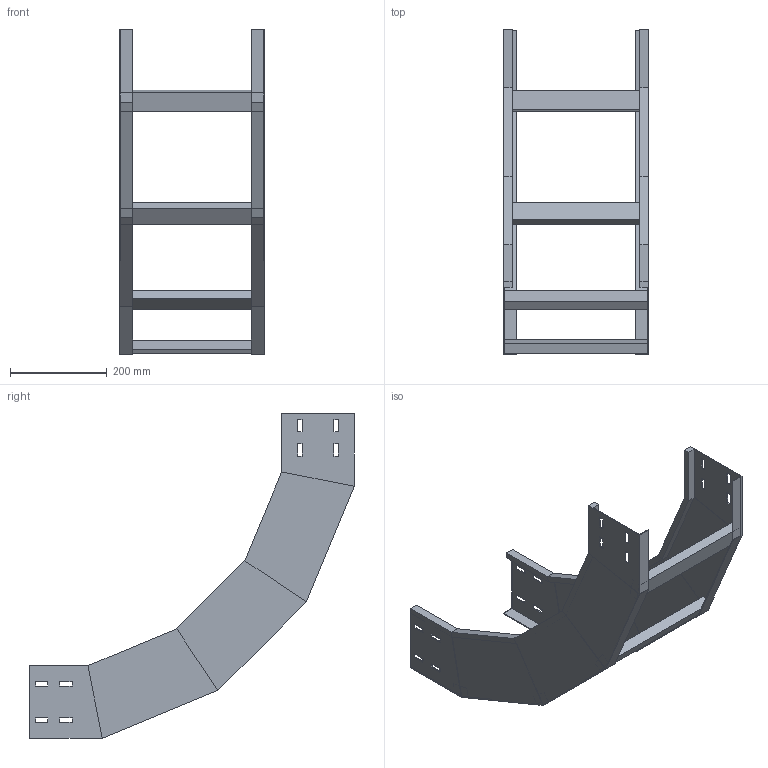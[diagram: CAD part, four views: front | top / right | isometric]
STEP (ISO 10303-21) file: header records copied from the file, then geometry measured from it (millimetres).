
FILE_DESCRIPTION (( 'STEP AP214' ), '1' );
FILE_NAME ('30J5F300.step', '2025-02-21T16:27:18', ( '' ), ( '' ), 'SwSTEP 2.0', 'SolidWorks 2023', '' );
FILE_SCHEMA (( 'AUTOMOTIVE_DESIGN' ));
Length unit declared in the file: millimetre
Products named in the file (3): TRAVERSINO_300; 30J5F300; LONGH.SALITA_90°_H150_R500
Assembly tree (6 placements, depth 2):
  30J5F300
    LONGH.SALITA_90°_H150_R500  x2
    TRAVERSINO_300  x4
Bounding box: 300 x 671.54 x 671.54 mm (x, y, z)
Volume: 1959548 mm3; surface area: 890944.2 mm2
Topology: 6 solids, 6 shells, 172 faces, 416 edges, 256 vertices
Faces by surface type: plane 172
Entity records: 2416 total; most frequent: CARTESIAN_POINT 405, ORIENTED_EDGE 392, DIRECTION 374, LINE 196, VECTOR 196, EDGE_CURVE 196, VERTEX_POINT 120, EDGE_LOOP 96
